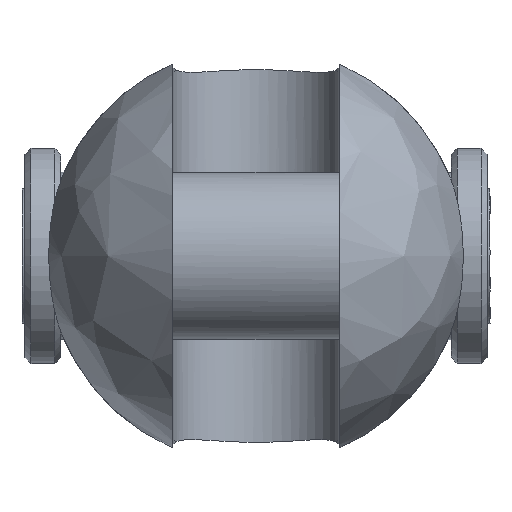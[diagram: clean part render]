
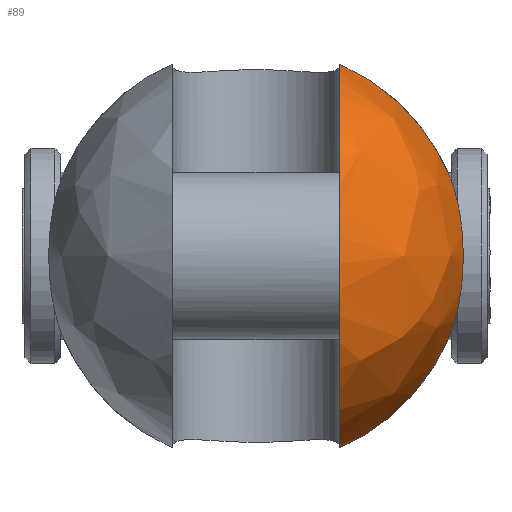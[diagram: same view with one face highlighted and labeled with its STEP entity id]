
A CAD part, left-side view. The second image highlights one B-rep face of the part: STEP entity #89.
In plain terms, the highlighted free-form (B-spline) face has degree [2, 2] with [9, 5] control points.
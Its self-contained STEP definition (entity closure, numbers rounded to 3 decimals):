
#89=ADVANCED_FACE('',(#164),#1306,.T.);
#164=FACE_OUTER_BOUND('',#249,.T.);
#249=EDGE_LOOP('',(#583,#584,#585,#586));
#583=ORIENTED_EDGE('',*,*,#811,.T.);
#584=ORIENTED_EDGE('',*,*,#833,.F.);
#585=ORIENTED_EDGE('',*,*,#851,.T.);
#586=ORIENTED_EDGE('',*,*,#827,.F.);
#811=EDGE_CURVE('',#1192,#1191,#1045,.T.);
#827=EDGE_CURVE('',#1192,#1204,#1055,.T.);
#833=EDGE_CURVE('',#1211,#1191,#1056,.T.);
#851=EDGE_CURVE('',#1211,#1204,#962,.T.);
#962=B_SPLINE_CURVE_WITH_KNOTS('',3,(#3095,#3096,#3097,#3098,#3099,#3100,
#3101,#3102,#3103,#3104,#3105,#3106,#3107,#3108),.UNSPECIFIED.,.F.,.F.,
(4,2,2,2,2,2,4),(-14.735,-13.45,-10.409,
-7.367,-4.326,-1.285,0.),.UNSPECIFIED.);
#1045=(
BOUNDED_CURVE()
B_SPLINE_CURVE(2,(#2912,#2913,#2914,#2915,#2916),.UNSPECIFIED.,.F.,.F.)
B_SPLINE_CURVE_WITH_KNOTS((3,2,3),(-50.388,-25.194,
0.),.UNSPECIFIED.)
CURVE()
GEOMETRIC_REPRESENTATION_ITEM()
RATIONAL_B_SPLINE_CURVE((1.,0.707,1.,0.707,1.))
REPRESENTATION_ITEM('')
);
#1055=(
BOUNDED_CURVE()
B_SPLINE_CURVE(2,(#2990,#2991,#2992),.UNSPECIFIED.,.F.,.F.)
B_SPLINE_CURVE_WITH_KNOTS((3,3),(0.,13.504),.UNSPECIFIED.)
CURVE()
GEOMETRIC_REPRESENTATION_ITEM()
RATIONAL_B_SPLINE_CURVE((1.,0.926,1.))
REPRESENTATION_ITEM('')
);
#1056=(
BOUNDED_CURVE()
B_SPLINE_CURVE(2,(#3015,#3016,#3017),.UNSPECIFIED.,.F.,.F.)
B_SPLINE_CURVE_WITH_KNOTS((3,3),(0.,13.504),.UNSPECIFIED.)
CURVE()
GEOMETRIC_REPRESENTATION_ITEM()
RATIONAL_B_SPLINE_CURVE((1.,0.926,1.))
REPRESENTATION_ITEM('')
);
#1191=VERTEX_POINT('',#2837);
#1192=VERTEX_POINT('',#2838);
#1204=VERTEX_POINT('',#2850);
#1211=VERTEX_POINT('',#2857);
#1306=(
BOUNDED_SURFACE()
B_SPLINE_SURFACE(2,2,((#2445,#2446,#2447,#2448,#2449),(#2450,#2451,#2452,
#2453,#2454),(#2455,#2456,#2457,#2458,#2459),(#2460,#2461,#2462,#2463,#2464),
(#2465,#2466,#2467,#2468,#2469),(#2470,#2471,#2472,#2473,#2474),(#2475,
#2476,#2477,#2478,#2479),(#2480,#2481,#2482,#2483,#2484),(#2485,#2486,#2487,
#2488,#2489)),.UNSPECIFIED.,.T.,.F.,.F.)
B_SPLINE_SURFACE_WITH_KNOTS((3,2,2,2,3),(3,2,3),(0.,1.571,3.142,
4.712,6.283),(-1.571,0.,1.571),
 .UNSPECIFIED.)
GEOMETRIC_REPRESENTATION_ITEM()
RATIONAL_B_SPLINE_SURFACE(((1.,0.707,1.,0.707,1.),
(0.707,0.5,0.707,0.5,0.707),(1.,0.707,
1.,0.707,1.),(0.707,0.5,0.707,0.5,0.707),
(1.,0.707,1.,0.707,1.),(0.707,0.5,0.707,
0.5,0.707),(1.,0.707,1.,0.707,1.),(0.707,
0.5,0.707,0.5,0.707),(1.,0.707,1.,0.707,
1.)))
REPRESENTATION_ITEM('')
SURFACE()
);
#2445=CARTESIAN_POINT('',(-25.,0.,0.));
#2446=CARTESIAN_POINT('',(-25.,17.5,0.));
#2447=CARTESIAN_POINT('',(-7.5,17.5,0.));
#2448=CARTESIAN_POINT('',(10.,17.5,0.));
#2449=CARTESIAN_POINT('',(10.,0.,0.));
#2450=CARTESIAN_POINT('',(-25.,0.,0.));
#2451=CARTESIAN_POINT('',(-25.,17.5,17.5));
#2452=CARTESIAN_POINT('',(-7.5,17.5,17.5));
#2453=CARTESIAN_POINT('',(10.,17.5,17.5));
#2454=CARTESIAN_POINT('',(10.,0.,0.));
#2455=CARTESIAN_POINT('',(-25.,0.,0.));
#2456=CARTESIAN_POINT('',(-25.,0.,17.5));
#2457=CARTESIAN_POINT('',(-7.5,0.,17.5));
#2458=CARTESIAN_POINT('',(10.,0.,17.5));
#2459=CARTESIAN_POINT('',(10.,0.,0.));
#2460=CARTESIAN_POINT('',(-25.,0.,0.));
#2461=CARTESIAN_POINT('',(-25.,-17.5,17.5));
#2462=CARTESIAN_POINT('',(-7.5,-17.5,17.5));
#2463=CARTESIAN_POINT('',(10.,-17.5,17.5));
#2464=CARTESIAN_POINT('',(10.,0.,0.));
#2465=CARTESIAN_POINT('',(-25.,0.,0.));
#2466=CARTESIAN_POINT('',(-25.,-17.5,0.));
#2467=CARTESIAN_POINT('',(-7.5,-17.5,0.));
#2468=CARTESIAN_POINT('',(10.,-17.5,0.));
#2469=CARTESIAN_POINT('',(10.,0.,0.));
#2470=CARTESIAN_POINT('',(-25.,0.,0.));
#2471=CARTESIAN_POINT('',(-25.,-17.5,-17.5));
#2472=CARTESIAN_POINT('',(-7.5,-17.5,-17.5));
#2473=CARTESIAN_POINT('',(10.,-17.5,-17.5));
#2474=CARTESIAN_POINT('',(10.,0.,0.));
#2475=CARTESIAN_POINT('',(-25.,0.,0.));
#2476=CARTESIAN_POINT('',(-25.,0.,-17.5));
#2477=CARTESIAN_POINT('',(-7.5,0.,-17.5));
#2478=CARTESIAN_POINT('',(10.,0.,-17.5));
#2479=CARTESIAN_POINT('',(10.,0.,0.));
#2480=CARTESIAN_POINT('',(-25.,0.,0.));
#2481=CARTESIAN_POINT('',(-25.,17.5,-17.5));
#2482=CARTESIAN_POINT('',(-7.5,17.5,-17.5));
#2483=CARTESIAN_POINT('',(10.,17.5,-17.5));
#2484=CARTESIAN_POINT('',(10.,0.,0.));
#2485=CARTESIAN_POINT('',(-25.,0.,0.));
#2486=CARTESIAN_POINT('',(-25.,17.5,0.));
#2487=CARTESIAN_POINT('',(-7.5,17.5,0.));
#2488=CARTESIAN_POINT('',(10.,17.5,0.));
#2489=CARTESIAN_POINT('',(10.,0.,0.));
#2837=CARTESIAN_POINT('',(-7.5,-7.,-16.039));
#2838=CARTESIAN_POINT('',(-7.5,-7.,16.039));
#2850=CARTESIAN_POINT('',(-7.5,-16.202,6.614));
#2857=CARTESIAN_POINT('',(-7.5,-16.202,-6.614));
#2912=CARTESIAN_POINT('',(-7.5,-7.,16.039));
#2913=CARTESIAN_POINT('',(-23.539,-7.,16.039));
#2914=CARTESIAN_POINT('',(-23.539,-7.,0.));
#2915=CARTESIAN_POINT('',(-23.539,-7.,-16.039));
#2916=CARTESIAN_POINT('',(-7.5,-7.,-16.039));
#2990=CARTESIAN_POINT('',(-7.5,-7.,16.039));
#2991=CARTESIAN_POINT('',(-7.5,-13.515,13.196));
#2992=CARTESIAN_POINT('',(-7.5,-16.202,6.614));
#3015=CARTESIAN_POINT('',(-7.5,-16.202,-6.614));
#3016=CARTESIAN_POINT('',(-7.5,-13.515,-13.196));
#3017=CARTESIAN_POINT('',(-7.5,-7.,-16.039));
#3095=CARTESIAN_POINT('',(-7.5,-16.202,-6.614));
#3096=CARTESIAN_POINT('',(-7.77,-16.327,-6.308));
#3097=CARTESIAN_POINT('',(-8.019,-16.44,-5.988));
#3098=CARTESIAN_POINT('',(-8.772,-16.782,-4.892));
#3099=CARTESIAN_POINT('',(-9.236,-16.987,-3.968));
#3100=CARTESIAN_POINT('',(-9.851,-17.256,-2.005));
#3101=CARTESIAN_POINT('',(-10.,-17.321,-0.966));
#3102=CARTESIAN_POINT('',(-10.,-17.321,0.966));
#3103=CARTESIAN_POINT('',(-9.851,-17.256,2.005));
#3104=CARTESIAN_POINT('',(-9.236,-16.987,3.968));
#3105=CARTESIAN_POINT('',(-8.772,-16.782,4.892));
#3106=CARTESIAN_POINT('',(-8.019,-16.44,5.988));
#3107=CARTESIAN_POINT('',(-7.77,-16.327,6.308));
#3108=CARTESIAN_POINT('',(-7.5,-16.202,6.614));
